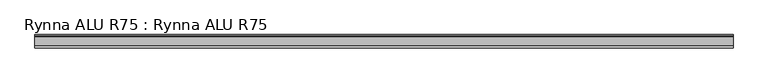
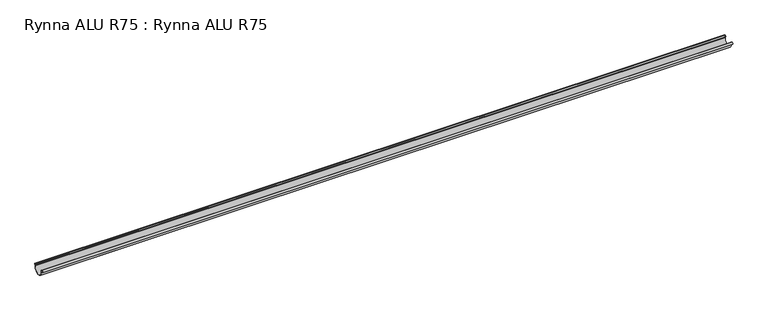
"""IFC4 building model written with IfcOpenShell, lengths in millimetres: proxy geometry, Rynna ALU R75 : Rynna ALU R75."""

from ifc_helpers import new_model, si_unit, point, frame, frame_2d, origin, place, context, project, spatial, polyline, circle_curve, trimmed, segment, composite_curve, outline, extrude, source, transform, mapped, element, save


def rynna_alu_r75_rynna_alu_r75_f71106fe(model_context):
    return source(origin(), model_context, "Body", "SweptSolid", [
        extrude(outline(composite_curve([segment(polyline([(-77.0000001, -18.8928858), (-77.0000001, -9.298839)]), True, "CONTINUOUS"), segment(trimmed(circle_curve(frame_2d((-83.065591, -8.6518374)), 6.1000004), [point((-77.0000001, -9.298839))], [point((-86.1676128, -13.9042145))], True, "CARTESIAN"), True, "CONTINUOUS"), segment(polyline([(-86.1676128, -13.9042145), (-86.1676128, -15.0383413)]), True, "CONTINUOUS"), segment(trimmed(circle_curve(frame_2d((-83.0655965, -8.651839)), 7.0999941), [point((-86.1676128, -15.0383413))], [point((-76.0000118, -9.3500002))], False, "CARTESIAN"), True, "CONTINUOUS"), segment(polyline([(-76.0000118, -9.3500002), (-76.0000118, -18.8754102)]), True, "CONTINUOUS"), segment(trimmed(circle_curve(frame_2d((-39.5000101, -18.8754102)), 36.5000017), [point((-76.0000118, -18.8754102))], [point((-3.0000084, -18.8754102))], True, "CARTESIAN"), True, "CONTINUOUS"), segment(polyline([(-3.0000084, -18.8754102), (-1.1093439, -0.9821469)]), True, "CONTINUOUS"), segment(trimmed(circle_curve(frame_2d((-0.8393369, -17.5562346)), 16.5762868), [point((-1.1093439, -0.9821469))], [point((-4.8989693, -1.4847483))], True, "CARTESIAN"), True, "CONTINUOUS"), segment(polyline([(-4.8989693, -1.4847483), (-10.02274, -6.608519), (-10.7298468, -5.9014122), (-5.4142136, -0.585779)]), True, "CONTINUOUS"), segment(trimmed(circle_curve(frame_2d((-0.8393369, -17.5562346)), 17.5762868), [point((-5.4142136, -0.585779))], [point((0.0, 0.0))], False, "CARTESIAN"), True, "CONTINUOUS"), segment(polyline([(0.0, 0.0), (-2.0, -18.8928858)]), True, "CONTINUOUS"), segment(trimmed(circle_curve(frame_2d((-39.5, -18.8928858)), 37.5), [point((-2.0, -18.8928858))], [point((-77.0000001, -18.8928858))], False, "CARTESIAN"), True, "CONTINUOUS")], self_intersect=False)), frame((-2317.0, 0.0, 0.0), z_axis=(1.0, 0.0, 0.0), x_axis=(0.0, 1.0, 0.0)), (0.0, 0.0, 1.0), 4634.0),
    ])


if __name__ == "__main__":
    model = new_model("IFC4")
    model_context = context("Model", 3, world=origin())
    ifc_project = project(units=[si_unit("LENGTHUNIT", "METRE", prefix="MILLI")], contexts=[model_context])
    site = spatial("IfcSite", under=ifc_project)
    building = spatial("IfcBuilding", under=site)
    placement = place(None, origin())
    rynna_alu_r75_rynna_alu_r75_shape = rynna_alu_r75_rynna_alu_r75_f71106fe(model_context)
    element("IfcBuildingElementProxy", 1, Name="Rynna ALU R75 : Rynna ALU R75", ObjectType="Rynna ALU R75 : Rynna ALU R75", at=placement, inside=building, context=model_context, shape_type="MappedRepresentation", body=[
        mapped(rynna_alu_r75_rynna_alu_r75_shape, transform((0.0, 0.0, 0.0), x_axis=(1.0, 0.0, 0.0), y_axis=(0.0, 1.0, 0.0), z_axis=(0.0, 0.0, 1.0))),
    ])
    save(model, "model.ifc")
